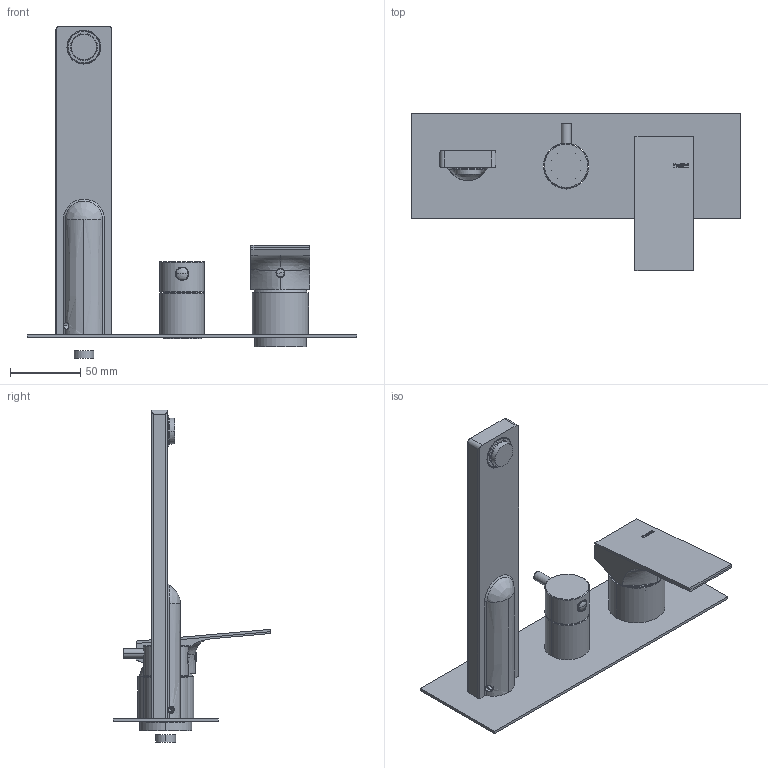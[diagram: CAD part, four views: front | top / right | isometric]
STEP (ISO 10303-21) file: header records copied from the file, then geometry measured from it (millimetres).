
FILE_DESCRIPTION((''),'2;1');
FILE_NAME('87528V2_ASM','2024-12-18T15:48:54',('volponeff'),(''),'CREO PARAMETRIC BY PTC INC, 2022014','CREO PARAMETRIC BY PTC INC, 2022014','');
FILE_SCHEMA(('CONFIG_CONTROL_DESIGN'));
Products named in the file (32): A483C20178_AF0; A302D40038_AF0; D465000187_AF0; D517C90325_AF0; D465C90272_AF0; D507000503_AF0; D451D50353_AF0; A503E90162_AF0; D451D50352_AF0; A503E90163_AF0; D451D50351_AF0; P507000483_AF0_ASM; D458C90750_AF0; A450000067; A536A80115; A503B60092_AF0; P458000754_AF0_ASM; D494C90058; D460000139; A503B60010; A503B60025_AF0; D451E50334; D514C90232; A536A80133; D500000808; D505000045; A536A80083; A511000105; D500001404_MAR; D511000162; A536A80109; 87528V2_ASM
Assembly tree (32 placements, depth 3):
  87528V2_ASM
    A483C20178_AF0
    A302D40038_AF0
    D465000187_AF0
    D517C90325_AF0
    D465C90272_AF0
    P507000483_AF0_ASM
      D507000503_AF0
      D451D50353_AF0
      A503E90162_AF0
      D451D50352_AF0
      A503E90163_AF0
      D451D50351_AF0
    P458000754_AF0_ASM
      D458C90750_AF0
      A450000067
      A536A80115
      A503B60092_AF0
    D494C90058
    D460000139
    A503B60010  x2
    A503B60025_AF0
    D451E50334
    D514C90232
    A536A80133
    D500000808
    D505000045
    A536A80083
    A511000105
    D500001404_MAR
    D511000162
    A536A80109
Bounding box: 235 x 112.34 x 236.5 mm (x, y, z)
Volume: 211583.2 mm3; surface area: 148317 mm2
Topology: 26 solids, 42 shells, 1736 faces, 4558 edges, 2899 vertices
Faces by surface type: cylinder 674, plane 530, cone 171, bspline 157, torus 108, extrusion 68, sphere 28
Entity records: 93708 total; most frequent: CARTESIAN_POINT 52121, ORIENTED_EDGE 8963, DIRECTION 7901, EDGE_CURVE 4517, AXIS2_PLACEMENT_3D 2943, VERTEX_POINT 2895, VECTOR 2015, LINE 1947
